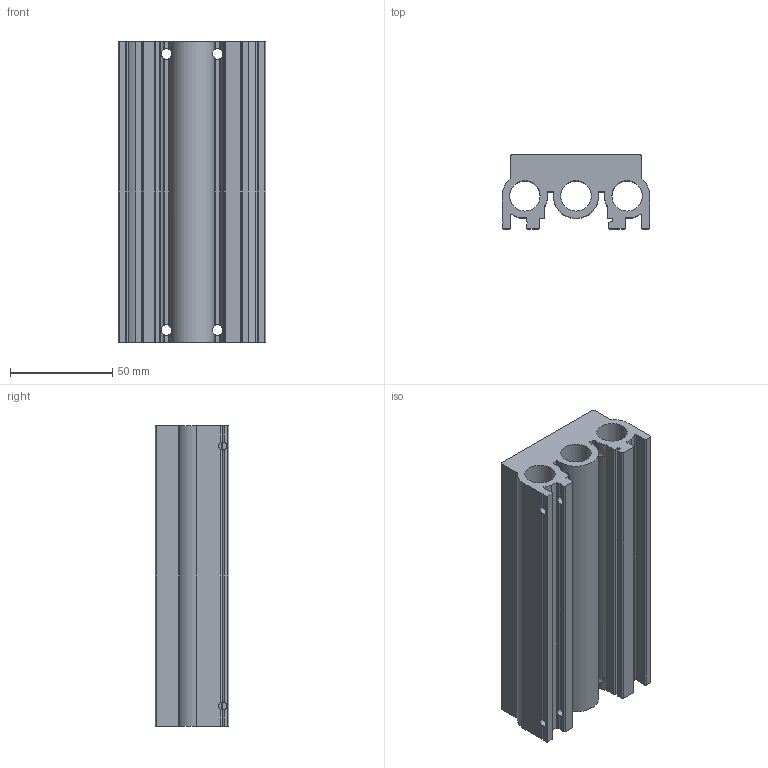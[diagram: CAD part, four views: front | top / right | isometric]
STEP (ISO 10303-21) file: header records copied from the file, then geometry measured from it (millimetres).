
FILE_DESCRIPTION(/* description */ ('COLLETTORE G1/4" 4 POSTI (TECNO-ECO)'),/* implementation_level */ '2;1');
FILE_NAME(/* name */ 'I:\Area Tecnica\Disegni\VARIE-3D\Componenti\T400\T424\T424_##\T424_04.stp',/* time_stamp */ '2015-09-23T13:41:31+02:00',/* author */ ('maniean1'),/* organization */ (''),/* preprocessor_version */ 'ST-DEVELOPER v15.2',/* originating_system */ 'Autodesk Inventor 2014',/* authorisation */ '');
FILE_SCHEMA (('AUTOMOTIVE_DESIGN { 1 0 10303 214 3 1 1 }'));
Length unit declared in the file: millimetre
Products named in the file (1): T424_04
Bounding box: 72 x 36 x 147 mm (x, y, z)
Volume: 209374.6 mm3; surface area: 71949.2 mm2
Topology: 1 solids, 1 shells, 189 faces, 491 edges, 322 vertices
Faces by surface type: cylinder 90, plane 87, cone 12
Full cylindrical faces by diameter (mm): 4 x16, 5.25 x4, 8 x12, 9 x4, 14.9 x3, 16.8 x12
Entity records: 6238 total; most frequent: CARTESIAN_POINT 1682, DIRECTION 952, ORIENTED_EDGE 840, EDGE_CURVE 420, AXIS2_PLACEMENT_3D 380, EDGE_LOOP 316, VERTEX_POINT 314, LINE 192
